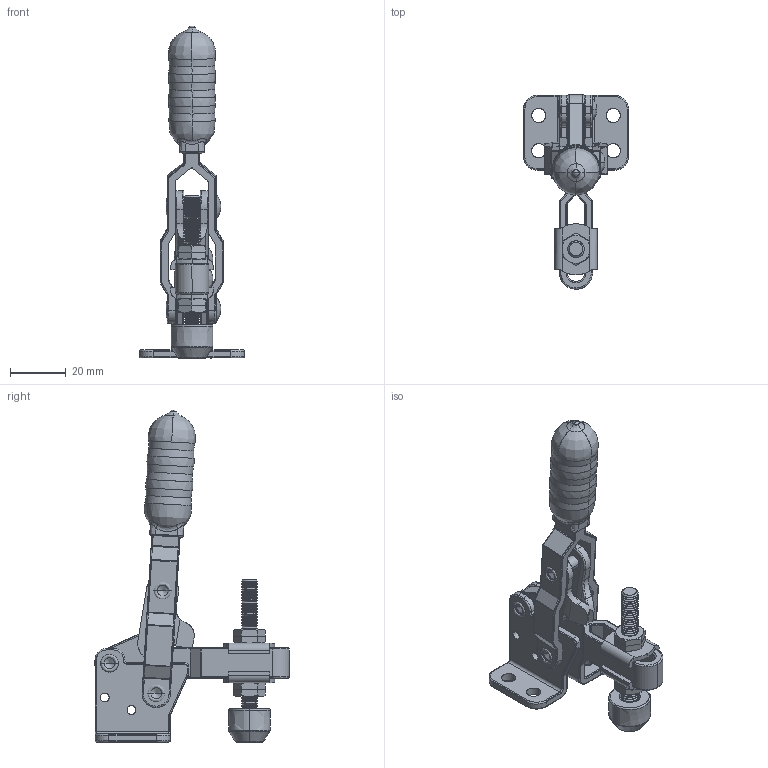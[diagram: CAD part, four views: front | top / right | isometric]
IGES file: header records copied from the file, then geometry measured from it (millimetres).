
Start section: 3D InterOp IGES (Version 17 0 1), Spatial Corp. Copyright (c) 1999-2007.
Bounding box: 37.8 x 70 x 119.43 mm (x, y, z)
Surface area: 26676.8 mm2 (no closed solid volume)
Topology: 0 solids, 0 shells, 1100 faces, 9062 edges, 9008 vertices
Faces by surface type: bspline 1100
